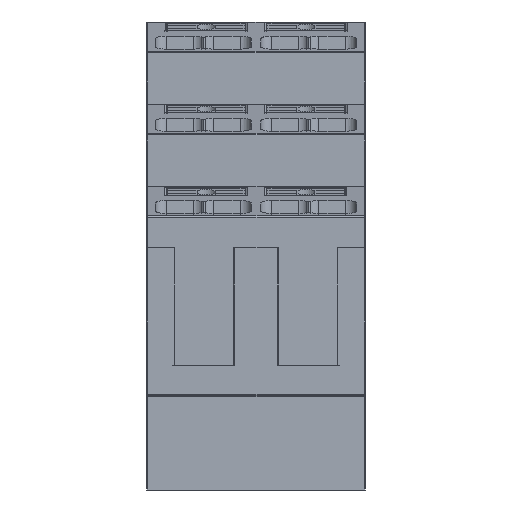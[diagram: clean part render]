
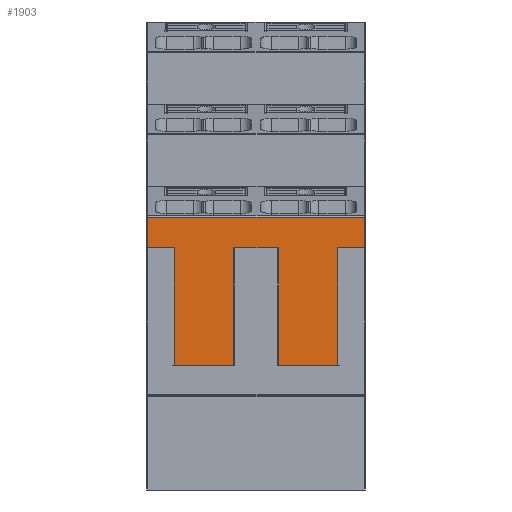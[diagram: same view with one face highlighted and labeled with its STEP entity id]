
A CAD part, left-side view. The second image highlights one B-rep face of the part: STEP entity #1903.
In plain terms, the highlighted planar face has unit normal (-1, 0, 0).
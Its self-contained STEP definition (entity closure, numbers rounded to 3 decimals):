
#1903=ADVANCED_FACE('',(#5388),#3871,.F.);
#3871=PLANE('',#39567);
#5388=FACE_OUTER_BOUND('',#7346,.T.);
#7346=EDGE_LOOP('',(#10000,#10001,#10002,#10003,#10004,#10005,#10006,#10007,
#10008,#10009,#10010,#10011));
#10000=ORIENTED_EDGE('',*,*,#24883,.T.);
#10001=ORIENTED_EDGE('',*,*,#24884,.T.);
#10002=ORIENTED_EDGE('',*,*,#24885,.T.);
#10003=ORIENTED_EDGE('',*,*,#24886,.T.);
#10004=ORIENTED_EDGE('',*,*,#24887,.T.);
#10005=ORIENTED_EDGE('',*,*,#24888,.F.);
#10006=ORIENTED_EDGE('',*,*,#24889,.F.);
#10007=ORIENTED_EDGE('',*,*,#24890,.T.);
#10008=ORIENTED_EDGE('',*,*,#24891,.T.);
#10009=ORIENTED_EDGE('',*,*,#24892,.F.);
#10010=ORIENTED_EDGE('',*,*,#24893,.F.);
#10011=ORIENTED_EDGE('',*,*,#24894,.T.);
#21119=VERTEX_POINT('',#53761);
#21120=VERTEX_POINT('',#53762);
#21121=VERTEX_POINT('',#53764);
#21122=VERTEX_POINT('',#53766);
#21123=VERTEX_POINT('',#53768);
#21124=VERTEX_POINT('',#53770);
#21125=VERTEX_POINT('',#53772);
#21126=VERTEX_POINT('',#53774);
#21127=VERTEX_POINT('',#53776);
#21128=VERTEX_POINT('',#53778);
#21129=VERTEX_POINT('',#53780);
#21130=VERTEX_POINT('',#53782);
#24883=EDGE_CURVE('',#21119,#21120,#30355,.T.);
#24884=EDGE_CURVE('',#21120,#21121,#30356,.T.);
#24885=EDGE_CURVE('',#21121,#21122,#30357,.T.);
#24886=EDGE_CURVE('',#21122,#21123,#30358,.T.);
#24887=EDGE_CURVE('',#21123,#21124,#30359,.T.);
#24888=EDGE_CURVE('',#21125,#21124,#30360,.T.);
#24889=EDGE_CURVE('',#21126,#21125,#30361,.T.);
#24890=EDGE_CURVE('',#21126,#21127,#30362,.T.);
#24891=EDGE_CURVE('',#21127,#21128,#30363,.T.);
#24892=EDGE_CURVE('',#21129,#21128,#30364,.T.);
#24893=EDGE_CURVE('',#21130,#21129,#30365,.T.);
#24894=EDGE_CURVE('',#21130,#21119,#30366,.T.);
#30355=LINE('',#53760,#35032);
#30356=LINE('',#53763,#35033);
#30357=LINE('',#53765,#35034);
#30358=LINE('',#53767,#35035);
#30359=LINE('',#53769,#35036);
#30360=LINE('',#53771,#35037);
#30361=LINE('',#53773,#35038);
#30362=LINE('',#53775,#35039);
#30363=LINE('',#53777,#35040);
#30364=LINE('',#53779,#35041);
#30365=LINE('',#53781,#35042);
#30366=LINE('',#53783,#35043);
#35032=VECTOR('',#42951,1.);
#35033=VECTOR('',#42952,1.);
#35034=VECTOR('',#42953,1.);
#35035=VECTOR('',#42954,1.);
#35036=VECTOR('',#42955,1.);
#35037=VECTOR('',#42956,1.);
#35038=VECTOR('',#42957,1.);
#35039=VECTOR('',#42958,1.);
#35040=VECTOR('',#42959,1.);
#35041=VECTOR('',#42960,1.);
#35042=VECTOR('',#42961,1.);
#35043=VECTOR('',#42962,1.);
#39567=AXIS2_PLACEMENT_3D('',#53784,#42963,#42964);
#42951=DIRECTION('',(0.,0.,1.));
#42952=DIRECTION('',(0.,1.,0.));
#42953=DIRECTION('',(0.,0.,-1.));
#42954=DIRECTION('',(0.,-1.,0.));
#42955=DIRECTION('',(0.,0.,-1.));
#42956=DIRECTION('',(0.,1.,0.));
#42957=DIRECTION('',(0.,0.,-1.));
#42958=DIRECTION('',(0.,-1.,0.));
#42959=DIRECTION('',(0.,0.,-1.));
#42960=DIRECTION('',(0.,1.,0.));
#42961=DIRECTION('',(0.,0.,-1.));
#42962=DIRECTION('',(0.,-1.,0.));
#42963=DIRECTION('',(1.,0.,0.));
#42964=DIRECTION('',(0.,0.,-1.));
#53760=CARTESIAN_POINT('',(-45.7,-220.9,20.157));
#53761=CARTESIAN_POINT('',(-45.7,-220.9,18.));
#53762=CARTESIAN_POINT('',(-45.7,-220.9,20.234));
#53763=CARTESIAN_POINT('',(-45.7,-205.1,20.234));
#53764=CARTESIAN_POINT('',(-45.7,-205.1,20.234));
#53765=CARTESIAN_POINT('',(-45.7,-205.1,20.));
#53766=CARTESIAN_POINT('',(-45.7,-205.1,18.));
#53767=CARTESIAN_POINT('',(-45.7,-235.8,18.));
#53768=CARTESIAN_POINT('',(-45.7,-206.49,18.));
#53769=CARTESIAN_POINT('',(-45.7,-206.49,15.75));
#53770=CARTESIAN_POINT('',(-45.7,-206.49,9.4));
#53771=CARTESIAN_POINT('',(-45.7,-208.,9.4));
#53772=CARTESIAN_POINT('',(-45.7,-211.958,9.4));
#53773=CARTESIAN_POINT('',(-45.7,-211.958,20.));
#53774=CARTESIAN_POINT('',(-45.7,-211.958,18.));
#53775=CARTESIAN_POINT('',(-45.7,-221.,18.));
#53776=CARTESIAN_POINT('',(-45.7,-214.042,18.));
#53777=CARTESIAN_POINT('',(-45.7,-214.042,41.198));
#53778=CARTESIAN_POINT('',(-45.7,-214.042,9.4));
#53779=CARTESIAN_POINT('',(-45.7,-208.,9.4));
#53780=CARTESIAN_POINT('',(-45.7,-219.51,9.4));
#53781=CARTESIAN_POINT('',(-45.7,-219.51,20.));
#53782=CARTESIAN_POINT('',(-45.7,-219.51,18.));
#53783=CARTESIAN_POINT('',(-45.7,-221.,18.));
#53784=CARTESIAN_POINT('',(-45.7,-221.,20.));
